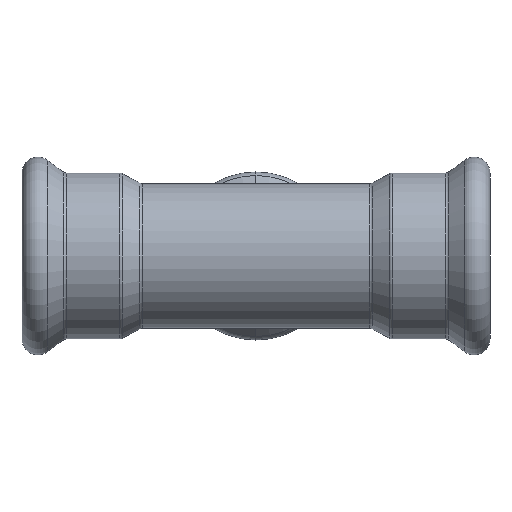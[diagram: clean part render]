
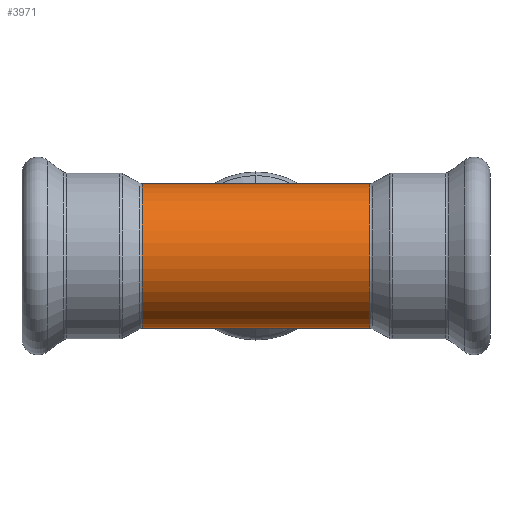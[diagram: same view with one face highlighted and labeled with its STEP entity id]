
A CAD part, front view. The second image highlights one B-rep face of the part: STEP entity #3971.
In plain terms, the highlighted cylindrical face has radius 13.6 mm (diameter 27.2 mm), a partial arc.
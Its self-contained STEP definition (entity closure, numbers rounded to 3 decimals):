
#21 = CARTESIAN_POINT ( 'NONE',  ( -21.377, 0., 13.6 ) ) ;
#23 = VERTEX_POINT ( 'NONE', #3173 ) ;
#358 = EDGE_LOOP ( 'NONE', ( #1684, #4220, #1097, #1894 ) ) ;
#448 = EDGE_CURVE ( 'NONE', #23, #3400, #3796, .T. ) ;
#500 = CYLINDRICAL_SURFACE ( 'NONE', #3580, 13.6 ) ;
#779 = CIRCLE ( 'NONE', #2665, 13.6 ) ;
#829 = DIRECTION ( 'NONE',  ( 0., 0., 1. ) ) ;
#996 = CARTESIAN_POINT ( 'NONE',  ( -21.377, 0., 0. ) ) ;
#1085 = EDGE_CURVE ( 'NONE', #2637, #3400, #779, .T. ) ;
#1097 = ORIENTED_EDGE ( 'NONE', *, *, #1573, .T. ) ;
#1213 = DIRECTION ( 'NONE',  ( -1., 0., 0. ) ) ;
#1433 = DIRECTION ( 'NONE',  ( 0., 0., 1. ) ) ;
#1436 = EDGE_CURVE ( 'NONE', #23, #4310, #2887, .T. ) ;
#1457 = DIRECTION ( 'NONE',  ( -1., 0., 0. ) ) ;
#1573 = EDGE_CURVE ( 'NONE', #4310, #2637, #2938, .T. ) ;
#1684 = ORIENTED_EDGE ( 'NONE', *, *, #448, .F. ) ;
#1761 = DIRECTION ( 'NONE',  ( 1., 0., 0. ) ) ;
#1894 = ORIENTED_EDGE ( 'NONE', *, *, #1085, .T. ) ;
#1987 = CARTESIAN_POINT ( 'NONE',  ( -21.377, 0., -13.6 ) ) ;
#2168 = FACE_OUTER_BOUND ( 'NONE', #358, .T. ) ;
#2233 = DIRECTION ( 'NONE',  ( -1., 0., 0. ) ) ;
#2418 = VECTOR ( 'NONE', #1213, 1000. ) ;
#2480 = CARTESIAN_POINT ( 'NONE',  ( 0., 0., -13.6 ) ) ;
#2523 = DIRECTION ( 'NONE',  ( 0., 0., 1. ) ) ;
#2637 = VERTEX_POINT ( 'NONE', #21 ) ;
#2665 = AXIS2_PLACEMENT_3D ( 'NONE', #996, #1761, #1433 ) ;
#2741 = DIRECTION ( 'NONE',  ( -1., 0., 0. ) ) ;
#2887 = CIRCLE ( 'NONE', #4002, 13.6 ) ;
#2938 = LINE ( 'NONE', #3853, #2418 ) ;
#3173 = CARTESIAN_POINT ( 'NONE',  ( 21.377, 0., -13.6 ) ) ;
#3400 = VERTEX_POINT ( 'NONE', #1987 ) ;
#3580 = AXIS2_PLACEMENT_3D ( 'NONE', #3831, #2233, #829 ) ;
#3767 = CARTESIAN_POINT ( 'NONE',  ( 21.377, 0., 0. ) ) ;
#3796 = LINE ( 'NONE', #2480, #3991 ) ;
#3831 = CARTESIAN_POINT ( 'NONE',  ( 0., 0., 0. ) ) ;
#3853 = CARTESIAN_POINT ( 'NONE',  ( 0., 0., 13.6 ) ) ;
#3971 = ADVANCED_FACE ( 'NONE', ( #2168 ), #500, .T. ) ;
#3991 = VECTOR ( 'NONE', #1457, 1000. ) ;
#4002 = AXIS2_PLACEMENT_3D ( 'NONE', #3767, #2741, #2523 ) ;
#4220 = ORIENTED_EDGE ( 'NONE', *, *, #1436, .T. ) ;
#4306 = CARTESIAN_POINT ( 'NONE',  ( 21.377, 0., 13.6 ) ) ;
#4310 = VERTEX_POINT ( 'NONE', #4306 ) ;
